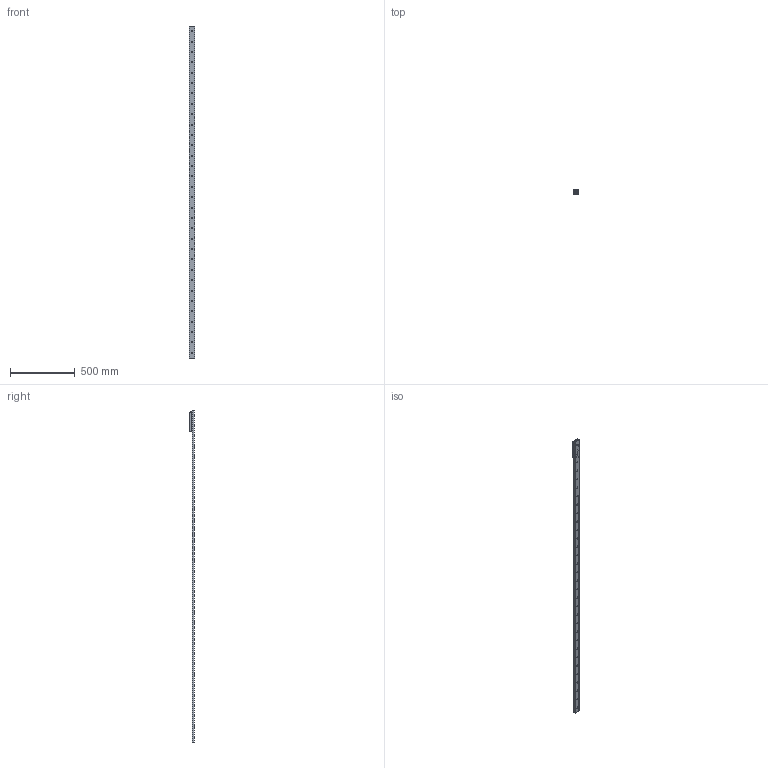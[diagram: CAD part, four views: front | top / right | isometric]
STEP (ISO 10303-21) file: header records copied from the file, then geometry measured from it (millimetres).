
FILE_DESCRIPTION( ( 'STEP AP214' ), '1' );
FILE_NAME( 'p:/temp/worker_15/temp/exporttempdir_3956_219_e3dCC/format_0/TGV-02560_1_RV43G-3.stp', '2021-05-14T19:19:16', ( 'License CC BY-ND 4.0' ), ( 'CADENAS' ), ' ', 'PARTsolutions', ' ' );
FILE_SCHEMA( ( 'AUTOMOTIVE_DESIGN { 1 0 10303 214 1 1 1 1 }' ) );
Length unit declared in the file: millimetre
Products named in the file (6): TGV-02560/1/RV43G-3; _TGV43-2560-(3-1); _RVG43-3-slider; _RGNV43R; _RGAV43R; _WR43G-01
Assembly tree (7 placements, depth 2):
  TGV-02560/1/RV43G-3
    _TGV43-2560-(3-1)
    _RVG43-3-slider
    _RGNV43R  x2
    _RGAV43R
    _WR43G-01  x2
Bounding box: 43 x 37 x 2560 mm (x, y, z)
Volume: 1058053.3 mm3; surface area: 426049.5 mm2
Topology: 7 solids, 7 shells, 1105 faces, 2884 edges, 1875 vertices
Faces by surface type: plane 663, cylinder 328, cone 71, bspline 34, torus 9
Full cylindrical faces by diameter (mm): 1.76 x4, 3 x8, 6 x4, 6.647 x4, 6.8 x3, 8 x3, 8.5 x32, 11 x11, 15 x6, 15.5 x1, 18.98 x2, 19 x1, 31.4 x6
Entity records: 26733 total; most frequent: CARTESIAN_POINT 4182, DIRECTION 3587, ORIENTED_EDGE 3256, EDGE_CURVE 1628, AXIS2_PLACEMENT_3D 1390, VERTEX_POINT 1147, EDGE_LOOP 989, LINE 807
